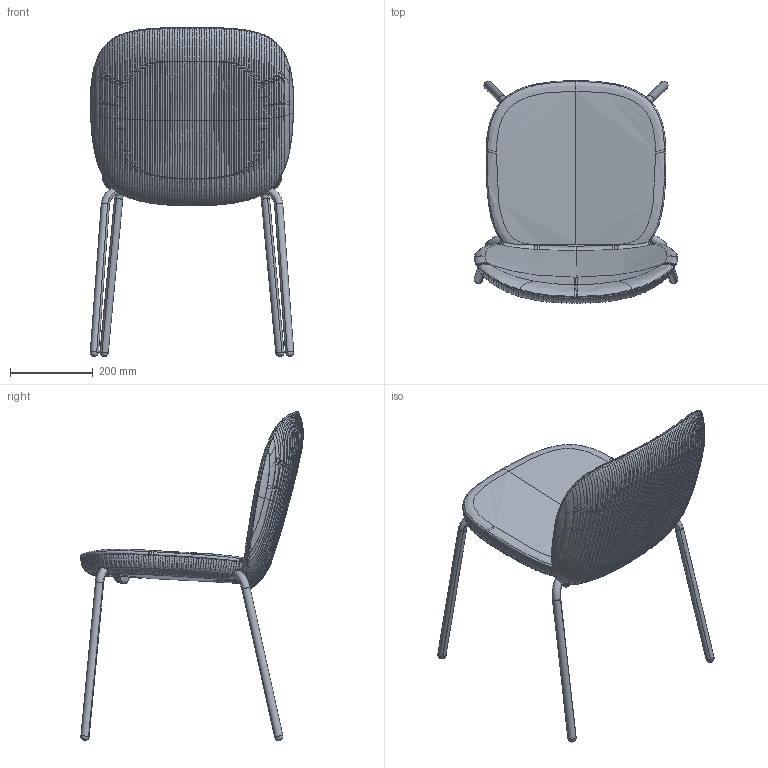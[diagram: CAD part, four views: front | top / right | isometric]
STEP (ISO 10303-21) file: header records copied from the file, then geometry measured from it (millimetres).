
FILE_DESCRIPTION(('CATIA V5 STEP Exchange','CAx-IF Rec.Pracs.--- Model Styling and Organization---1.5--- 2016-08-15','CAx-IF Rec.Pracs.---Supplemental Geometry---1.0---2011-11-01','CAx-IF Rec.Pracs.--- Composite Materials ---3.4---2017-06-13','CAx-IF Rec.Pracs.---Tessellated 3D Geometry---1.0---2015-12-17'),'2;1');
FILE_NAME('C:\Users\nbertollo\Desktop\File-3D-for-WEB_2024\FADE-Stack-Chair\FADE-Stack-Chair.stp','2024-03-20T08:55:14+00:00',('none'),('none'),'CATIA Version 5-6 Release 2020 SP3','CATIA V5 STEP AP242 v2','none');
FILE_SCHEMA(('AP242_MANAGED_MODEL_BASED_3D_ENGINEERING_MIM_LF {1 0 10303 442 1 1 4}'));
Products named in the file (1): Part3
Bounding box: 490.54 x 537.3 x 793.82 mm (x, y, z)
Volume: 16964178.7 mm3; surface area: 1099913.9 mm2
Topology: 7 solids, 7 shells, 3783 faces, 9030 edges, 5085 vertices
Faces by surface type: bspline 3616, cylinder 62, plane 43, torus 38, cone 12, sphere 10, extrusion 2
Entity records: 566308 total; most frequent: CARTESIAN_POINT 509694, ORIENTED_EDGE 17708, EDGE_CURVE 8854, B_SPLINE_CURVE_WITH_KNOTS 8592, VERTEX_POINT 5085, EDGE_LOOP 3803, ADVANCED_FACE 3783, FACE_OUTER_BOUND 3783
